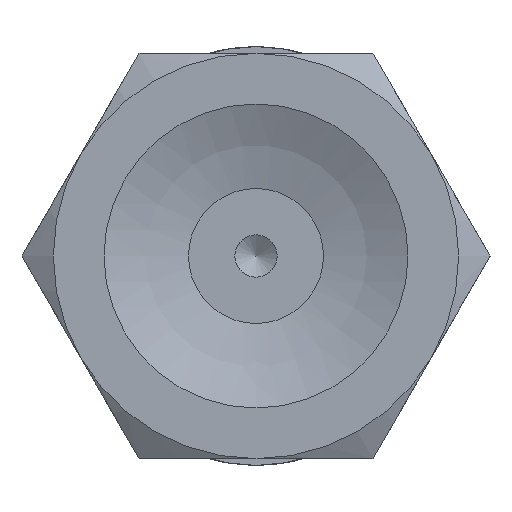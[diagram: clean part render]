
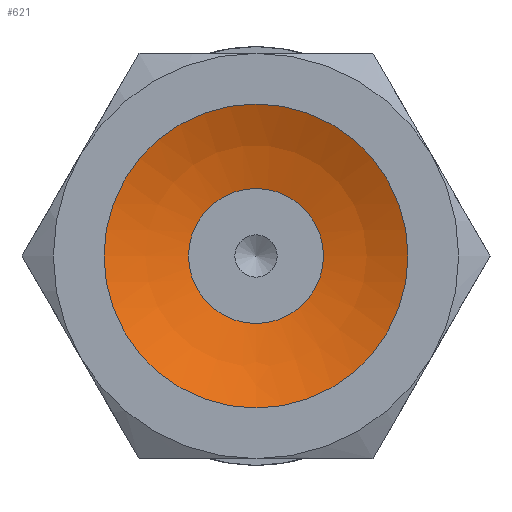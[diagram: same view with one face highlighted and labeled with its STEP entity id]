
A CAD part, front view. The second image highlights one B-rep face of the part: STEP entity #621.
In plain terms, the highlighted spherical face has radius 10.203 mm.
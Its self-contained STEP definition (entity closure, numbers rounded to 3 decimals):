
#621=ADVANCED_FACE('',(#947,#948),#949,.F.);
#947=FACE_OUTER_BOUND('',#1368,.T.);
#948=FACE_OUTER_BOUND('',#1369,.T.);
#949=SPHERICAL_SURFACE('',#1370,10.203);
#1368=EDGE_LOOP('',(#2429));
#1369=EDGE_LOOP('',(#2430));
#1370=AXIS2_PLACEMENT_3D('',#2431,#2432,#2433);
#2429=ORIENTED_EDGE('',*,*,#2981,.T.);
#2430=ORIENTED_EDGE('',*,*,#2982,.F.);
#2431=CARTESIAN_POINT('',(0.,-9.157,0.));
#2432=DIRECTION('',(0.0,-1.0,0.));
#2433=DIRECTION('',(1.0,0.0,0.0));
#2981=EDGE_CURVE('',#3389,#3389,#3390,.T.);
#2982=EDGE_CURVE('',#3391,#3391,#3392,.T.);
#3389=VERTEX_POINT('',#4429);
#3390=CIRCLE('',#4430,4.5);
#3391=VERTEX_POINT('',#4431);
#3392=CIRCLE('',#4432,2.);
#4429=CARTESIAN_POINT('',(0.0,0.,-4.5));
#4430=AXIS2_PLACEMENT_3D('',#5198,#5199,#5200);
#4431=CARTESIAN_POINT('',(0.0,0.848,-2.));
#4432=AXIS2_PLACEMENT_3D('',#5201,#5202,#5203);
#5198=CARTESIAN_POINT('',(0.0,0.,0.0));
#5199=DIRECTION('',(0.0,-1.0,0.));
#5200=DIRECTION('',(0.0,0.,-1.0));
#5201=CARTESIAN_POINT('',(0.0,0.848,0.0));
#5202=DIRECTION('',(0.0,-1.0,0.));
#5203=DIRECTION('',(0.0,0.,-1.0));
